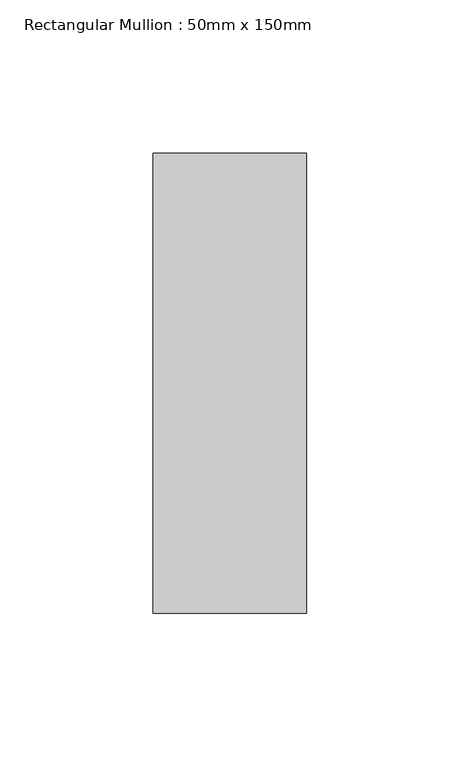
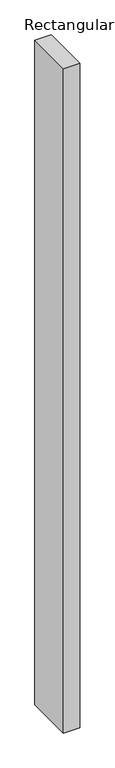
"""IFC4 building model written with IfcOpenShell, lengths in millimetres: member geometry, Rectangular Mullion : 50mm x 150mm."""

from ifc_helpers import new_model, si_unit, frame, origin, place, context, project, spatial, polyline, outline, extrude, source, transform, mapped, element, save


def rectangular_mullion_50mm_x_150mm_22af440f(model_context):
    return source(origin(), model_context, "Body", "SweptSolid", [
        extrude(outline(polyline([(0.0, 75.0), (0.0, -75.0), (-50.0, -75.0), (-50.0, 75.0), (0.0, 75.0)])), frame((0.0, 0.0, -2135.0), z_axis=(0.0, 0.0, 1.0), x_axis=(1.0, 0.0, 0.0)), (0.0, 0.0, 1.0), 2135.0),
    ])


if __name__ == "__main__":
    model = new_model("IFC4")
    model_context = context("Model", 3, world=origin())
    ifc_project = project(units=[si_unit("LENGTHUNIT", "METRE", prefix="MILLI")], contexts=[model_context])
    site = spatial("IfcSite", under=ifc_project)
    building = spatial("IfcBuilding", under=site)
    placement = place(None, origin())
    rectangular_mullion_50mm_x_150mm_shape = rectangular_mullion_50mm_x_150mm_22af440f(model_context)
    element("IfcMember", 1, ObjectType="Rectangular Mullion : 50mm x 150mm", at=placement, inside=building, context=model_context, shape_type="MappedRepresentation", body=[
        mapped(rectangular_mullion_50mm_x_150mm_shape, transform((0.0, 0.0, 0.0), x_axis=(1.0, 0.0, 0.0), y_axis=(0.0, 1.0, 0.0), z_axis=(0.0, 0.0, 1.0))),
    ])
    save(model, "model.ifc")
